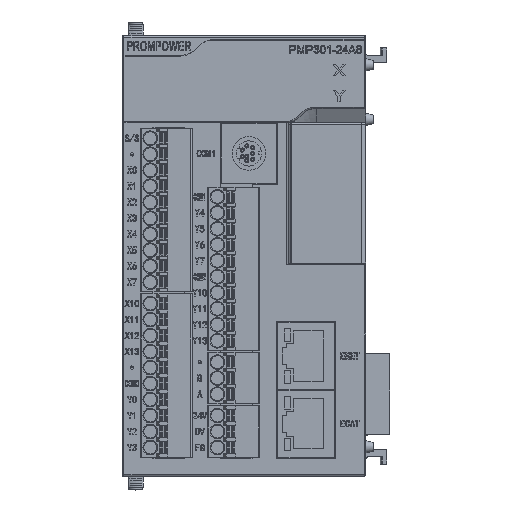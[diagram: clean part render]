
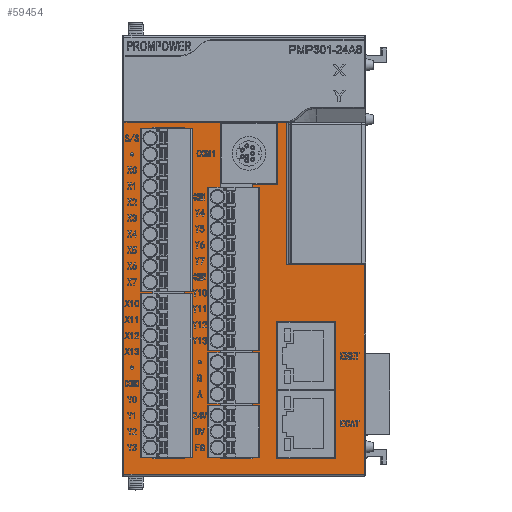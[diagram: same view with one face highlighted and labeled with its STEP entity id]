
A CAD part, top view. The second image highlights one B-rep face of the part: STEP entity #59454.
In plain terms, the highlighted planar face has unit normal (0, 0, 1) as drawn and (0, 1, 0) by its records, which use the part's own axes.
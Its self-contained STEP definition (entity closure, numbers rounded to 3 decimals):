
#59454=ADVANCED_FACE('',(#94103,#94105,#94107),#94109,.T.);
#94103=FACE_BOUND('',#94104,.T.);
#94104=EDGE_LOOP('',(#117443,#117444,#117445,#117446,#117447,#117448,#117449,#117450,
#117451,#117452,#117453,#117454));
#94105=FACE_BOUND('',#94106,.T.);
#94106=EDGE_LOOP('',(#117455,#117456,#117457,#117458));
#94107=FACE_BOUND('',#94108,.T.);
#94108=EDGE_LOOP('',(#117459,#117460,#117461,#117462));
#94109=PLANE('',#94110);
#94110=AXIS2_PLACEMENT_3D('',#94111,#94112,#94113);
#94111=CARTESIAN_POINT('',(15.853,138.727,117.57));
#94112=DIRECTION('',(0.,1.,0.));
#94113=DIRECTION('',(0.,0.,1.));
#117443=ORIENTED_EDGE('',*,*,#139030,.F.);
#117444=ORIENTED_EDGE('',*,*,#139039,.T.);
#117445=ORIENTED_EDGE('',*,*,#139036,.F.);
#117446=ORIENTED_EDGE('',*,*,#139102,.T.);
#117447=ORIENTED_EDGE('',*,*,#139105,.F.);
#117448=ORIENTED_EDGE('',*,*,#139149,.F.);
#117449=ORIENTED_EDGE('',*,*,#139426,.F.);
#117450=ORIENTED_EDGE('',*,*,#136038,.F.);
#117451=ORIENTED_EDGE('',*,*,#139427,.T.);
#117452=ORIENTED_EDGE('',*,*,#139050,.T.);
#117453=ORIENTED_EDGE('',*,*,#139034,.F.);
#117454=ORIENTED_EDGE('',*,*,#139032,.F.);
#117455=ORIENTED_EDGE('',*,*,#139047,.F.);
#117456=ORIENTED_EDGE('',*,*,#139045,.T.);
#117457=ORIENTED_EDGE('',*,*,#139043,.F.);
#117458=ORIENTED_EDGE('',*,*,#139041,.F.);
#117459=ORIENTED_EDGE('',*,*,#139022,.F.);
#117460=ORIENTED_EDGE('',*,*,#139028,.F.);
#117461=ORIENTED_EDGE('',*,*,#139026,.F.);
#117462=ORIENTED_EDGE('',*,*,#139024,.F.);
#136038=EDGE_CURVE('',#212196,#212198,#212199,.T.);
#139022=EDGE_CURVE('',#217075,#217077,#217078,.T.);
#139024=EDGE_CURVE('',#217077,#217080,#217081,.T.);
#139026=EDGE_CURVE('',#217080,#217083,#217084,.T.);
#139028=EDGE_CURVE('',#217083,#217075,#217086,.T.);
#139030=EDGE_CURVE('',#217087,#217089,#217090,.T.);
#139032=EDGE_CURVE('',#217089,#217092,#217093,.T.);
#139034=EDGE_CURVE('',#217092,#217095,#217096,.T.);
#139036=EDGE_CURVE('',#217098,#217099,#217100,.T.);
#139039=EDGE_CURVE('',#217087,#217099,#217103,.T.);
#139041=EDGE_CURVE('',#217104,#217106,#217107,.T.);
#139043=EDGE_CURVE('',#217106,#217109,#217110,.T.);
#139045=EDGE_CURVE('',#217112,#217109,#217113,.T.);
#139047=EDGE_CURVE('',#217112,#217104,#217115,.T.);
#139050=EDGE_CURVE('',#217117,#217095,#217120,.T.);
#139102=EDGE_CURVE('',#217098,#217201,#217203,.T.);
#139105=EDGE_CURVE('',#217206,#217201,#217208,.T.);
#139149=EDGE_CURVE('',#217261,#217206,#217279,.T.);
#139426=EDGE_CURVE('',#212198,#217261,#217822,.T.);
#139427=EDGE_CURVE('',#212196,#217117,#217823,.T.);
#212196=VERTEX_POINT('',#230979);
#212198=VERTEX_POINT('',#230983);
#212199=LINE('',#230984,#230985);
#217075=VERTEX_POINT('',#243355);
#217077=VERTEX_POINT('',#243359);
#217078=LINE('',#243360,#243361);
#217080=VERTEX_POINT('',#243366);
#217081=LINE('',#243367,#243368);
#217083=VERTEX_POINT('',#243373);
#217084=LINE('',#243374,#243375);
#217086=LINE('',#243380,#243381);
#217087=VERTEX_POINT('',#243383);
#217089=VERTEX_POINT('',#243387);
#217090=LINE('',#243388,#243389);
#217092=VERTEX_POINT('',#243394);
#217093=LINE('',#243395,#243396);
#217095=VERTEX_POINT('',#243401);
#217096=LINE('',#243402,#243403);
#217098=VERTEX_POINT('',#243408);
#217099=VERTEX_POINT('',#243409);
#217100=LINE('',#243410,#243411);
#217103=LINE('',#243419,#243420);
#217104=VERTEX_POINT('',#243422);
#217106=VERTEX_POINT('',#243426);
#217107=LINE('',#243427,#243428);
#217109=VERTEX_POINT('',#243433);
#217110=LINE('',#243434,#243435);
#217112=VERTEX_POINT('',#243440);
#217113=LINE('',#243441,#243442);
#217115=LINE('',#243447,#243448);
#217117=VERTEX_POINT('',#243451);
#217120=LINE('',#243458,#243459);
#217201=VERTEX_POINT('',#243732);
#217203=LINE('',#243737,#243738);
#217206=VERTEX_POINT('',#243744);
#217208=LINE('',#243749,#243750);
#217261=VERTEX_POINT('',#243884);
#217279=LINE('',#243926,#243927);
#217822=LINE('',#245926,#245927);
#217823=LINE('',#245929,#245930);
#230979=CARTESIAN_POINT('',(60.373,138.727,59.22));
#230983=CARTESIAN_POINT('',(78.773,138.727,59.22));
#230984=CARTESIAN_POINT('',(60.373,138.727,59.22));
#230985=VECTOR('',#230986,1.);
#230986=DIRECTION('',(1.,0.,0.));
#243355=CARTESIAN_POINT('',(57.923,138.727,72.686));
#243359=CARTESIAN_POINT('',(57.923,138.727,105.386));
#243360=CARTESIAN_POINT('',(57.923,138.727,72.686));
#243361=VECTOR('',#243362,1.);
#243362=DIRECTION('',(0.,0.,1.));
#243366=CARTESIAN_POINT('',(72.073,138.727,105.386));
#243367=CARTESIAN_POINT('',(57.923,138.727,105.386));
#243368=VECTOR('',#243369,1.);
#243369=DIRECTION('',(1.,0.,0.));
#243373=CARTESIAN_POINT('',(72.073,138.727,72.686));
#243374=CARTESIAN_POINT('',(72.073,138.727,105.386));
#243375=VECTOR('',#243376,1.);
#243376=DIRECTION('',(0.,0.,-1.));
#243380=CARTESIAN_POINT('',(72.073,138.727,72.686));
#243381=VECTOR('',#243382,1.);
#243382=DIRECTION('',(-1.,0.,0.));
#243383=CARTESIAN_POINT('',(52.073,138.727,105.382));
#243387=CARTESIAN_POINT('',(52.073,138.727,40.102));
#243388=CARTESIAN_POINT('',(52.073,138.727,105.382));
#243389=VECTOR('',#243390,1.);
#243390=DIRECTION('',(0.,0.,-1.));
#243394=CARTESIAN_POINT('',(58.173,138.727,40.102));
#243395=CARTESIAN_POINT('',(52.073,138.727,40.102));
#243396=VECTOR('',#243397,1.);
#243397=DIRECTION('',(1.,0.,0.));
#243401=CARTESIAN_POINT('',(58.173,138.727,25.3));
#243402=CARTESIAN_POINT('',(58.173,138.727,40.102));
#243403=VECTOR('',#243404,1.);
#243404=DIRECTION('',(0.,0.,-1.));
#243408=CARTESIAN_POINT('',(44.473,138.727,25.3));
#243409=CARTESIAN_POINT('',(44.473,138.727,105.382));
#243410=CARTESIAN_POINT('',(44.473,138.727,25.3));
#243411=VECTOR('',#243412,1.);
#243412=DIRECTION('',(0.,0.,1.));
#243419=CARTESIAN_POINT('',(52.073,138.727,105.382));
#243420=VECTOR('',#243421,1.);
#243421=DIRECTION('',(-1.,0.,0.));
#243422=CARTESIAN_POINT('',(36.073,138.727,26.502));
#243426=CARTESIAN_POINT('',(28.473,138.727,26.502));
#243427=CARTESIAN_POINT('',(36.073,138.727,26.502));
#243428=VECTOR('',#243429,1.);
#243429=DIRECTION('',(-1.,0.,0.));
#243433=CARTESIAN_POINT('',(28.473,138.727,105.382));
#243434=CARTESIAN_POINT('',(28.473,138.727,26.502));
#243435=VECTOR('',#243436,1.);
#243436=DIRECTION('',(0.,0.,1.));
#243440=CARTESIAN_POINT('',(36.073,138.727,105.382));
#243441=CARTESIAN_POINT('',(36.073,138.727,105.382));
#243442=VECTOR('',#243443,1.);
#243443=DIRECTION('',(-1.,0.,0.));
#243447=CARTESIAN_POINT('',(36.073,138.727,105.382));
#243448=VECTOR('',#243449,1.);
#243449=DIRECTION('',(0.,0.,-1.));
#243451=CARTESIAN_POINT('',(60.373,138.727,25.3));
#243458=CARTESIAN_POINT('',(60.373,138.727,25.3));
#243459=VECTOR('',#243460,1.);
#243460=DIRECTION('',(-1.,0.,0.));
#243732=CARTESIAN_POINT('',(21.573,138.727,25.3));
#243737=CARTESIAN_POINT('',(44.473,138.727,25.3));
#243738=VECTOR('',#243739,1.);
#243739=DIRECTION('',(-1.,0.,0.));
#243744=CARTESIAN_POINT('',(21.573,138.727,109.182));
#243749=CARTESIAN_POINT('',(21.573,138.727,109.182));
#243750=VECTOR('',#243751,1.);
#243751=DIRECTION('',(0.,0.,-1.));
#243884=CARTESIAN_POINT('',(78.773,138.727,109.182));
#243926=CARTESIAN_POINT('',(78.773,138.727,109.182));
#243927=VECTOR('',#243928,1.);
#243928=DIRECTION('',(-1.,0.,0.));
#245926=CARTESIAN_POINT('',(78.773,138.727,59.22));
#245927=VECTOR('',#245928,1.);
#245928=DIRECTION('',(0.,0.,1.));
#245929=CARTESIAN_POINT('',(60.373,138.727,59.22));
#245930=VECTOR('',#245931,1.);
#245931=DIRECTION('',(0.,0.,-1.));
